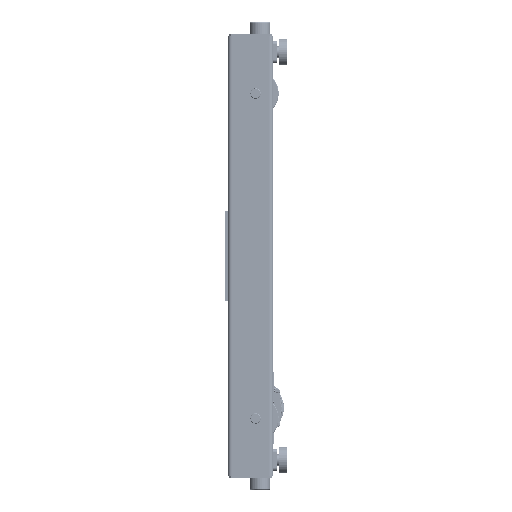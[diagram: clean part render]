
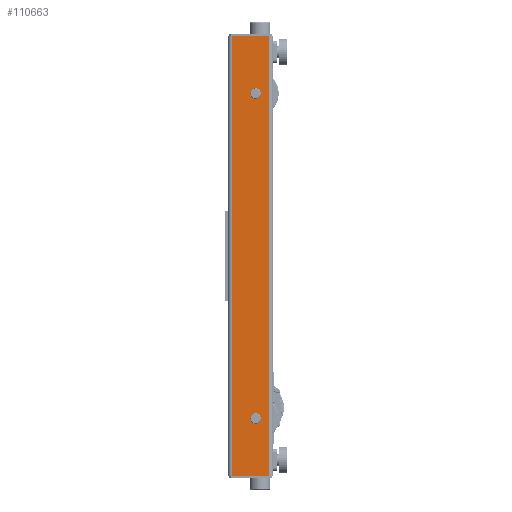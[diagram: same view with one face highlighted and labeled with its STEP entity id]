
A CAD part, left-side view. The second image highlights one B-rep face of the part: STEP entity #110663.
In plain terms, the highlighted planar face has unit normal (-1, 0, 0).
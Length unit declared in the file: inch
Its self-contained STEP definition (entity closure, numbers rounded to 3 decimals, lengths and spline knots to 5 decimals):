
#1296 = ORIENTED_EDGE ( 'NONE', *, *, #123405, .T. ) ;
#1353 = DIRECTION ( 'NONE',  ( 0., 1., 0. ) ) ;
#5076 = CIRCLE ( 'NONE', #177963, 0.69 ) ;
#5777 = LINE ( 'NONE', #51172, #96091 ) ;
#8456 = CARTESIAN_POINT ( 'NONE',  ( 0., 0.5, 0. ) ) ;
#8955 = VERTEX_POINT ( 'NONE', #112087 ) ;
#13245 = DIRECTION ( 'NONE',  ( 0., 1., 0. ) ) ;
#16379 = AXIS2_PLACEMENT_3D ( 'NONE', #188237, #58630, #13245 ) ;
#18720 = AXIS2_PLACEMENT_3D ( 'NONE', #118405, #59339, #1353 ) ;
#18792 = CARTESIAN_POINT ( 'NONE',  ( 0., 0.5, 58.125 ) ) ;
#19993 = AXIS2_PLACEMENT_3D ( 'NONE', #178154, #179110, #58299 ) ;
#20710 = DIRECTION ( 'NONE',  ( 0., 0., -1. ) ) ;
#23028 = EDGE_LOOP ( 'NONE', ( #1296, #184582 ) ) ;
#26532 = CARTESIAN_POINT ( 'NONE',  ( 0., 2.326, 7.563 ) ) ;
#27349 = CARTESIAN_POINT ( 'NONE',  ( 0., 1.636, 50.563 ) ) ;
#28414 = DIRECTION ( 'NONE',  ( 1., 0., 0. ) ) ;
#32395 = ORIENTED_EDGE ( 'NONE', *, *, #85123, .T. ) ;
#39022 = LINE ( 'NONE', #98030, #74369 ) ;
#40369 = CARTESIAN_POINT ( 'NONE',  ( 0., 5.5, 0. ) ) ;
#42019 = CARTESIAN_POINT ( 'NONE',  ( 0., 5.5, 58.125 ) ) ;
#43424 = EDGE_CURVE ( 'NONE', #100585, #8955, #5076, .T. ) ;
#51172 = CARTESIAN_POINT ( 'NONE',  ( 0., 5.5, 58.125 ) ) ;
#52470 = VECTOR ( 'NONE', #117168, 39.37008 ) ;
#54053 = CARTESIAN_POINT ( 'NONE',  ( 0., 3.016, 50.563 ) ) ;
#57896 = VERTEX_POINT ( 'NONE', #54053 ) ;
#58117 = CARTESIAN_POINT ( 'NONE',  ( 0., 0.5, 58.125 ) ) ;
#58299 = DIRECTION ( 'NONE',  ( 0., 1., 0. ) ) ;
#58630 = DIRECTION ( 'NONE',  ( 1., 0., 0. ) ) ;
#59339 = DIRECTION ( 'NONE',  ( 1., 0., 0. ) ) ;
#61164 = DIRECTION ( 'NONE',  ( 0., 0., -1. ) ) ;
#62120 = DIRECTION ( 'NONE',  ( 1., 0., 0. ) ) ;
#66532 = ORIENTED_EDGE ( 'NONE', *, *, #85441, .T. ) ;
#68052 = EDGE_CURVE ( 'NONE', #8955, #100585, #110525, .T. ) ;
#69140 = FACE_OUTER_BOUND ( 'NONE', #129566, .T. ) ;
#70630 = ORIENTED_EDGE ( 'NONE', *, *, #43424, .T. ) ;
#74369 = VECTOR ( 'NONE', #157029, 39.37008 ) ;
#85123 = EDGE_CURVE ( 'NONE', #154420, #126675, #39022, .T. ) ;
#85441 = EDGE_CURVE ( 'NONE', #107642, #154420, #5777, .T. ) ;
#91075 = CIRCLE ( 'NONE', #19993, 0.69 ) ;
#96091 = VECTOR ( 'NONE', #183639, 39.37008 ) ;
#97211 = FACE_BOUND ( 'NONE', #183170, .T. ) ;
#98030 = CARTESIAN_POINT ( 'NONE',  ( 0., 0.5, 0. ) ) ;
#99033 = CARTESIAN_POINT ( 'NONE',  ( 0., 2.326, 7.563 ) ) ;
#100585 = VERTEX_POINT ( 'NONE', #181798 ) ;
#107642 = VERTEX_POINT ( 'NONE', #42019 ) ;
#109036 = CIRCLE ( 'NONE', #16379, 0.69 ) ;
#110525 = CIRCLE ( 'NONE', #172172, 0.69 ) ;
#110663 = ADVANCED_FACE ( 'NONE', ( #97211, #186125, #69140 ), #187071, .F. ) ;
#112087 = CARTESIAN_POINT ( 'NONE',  ( 0., 2.326, 6.873 ) ) ;
#117168 = DIRECTION ( 'NONE',  ( 0., -1., 0. ) ) ;
#118405 = CARTESIAN_POINT ( 'NONE',  ( 0., 0.5, 58.125 ) ) ;
#120772 = EDGE_CURVE ( 'NONE', #148612, #57896, #109036, .T. ) ;
#122338 = ORIENTED_EDGE ( 'NONE', *, *, #68052, .T. ) ;
#123405 = EDGE_CURVE ( 'NONE', #57896, #148612, #91075, .T. ) ;
#126675 = VERTEX_POINT ( 'NONE', #8456 ) ;
#127351 = EDGE_CURVE ( 'NONE', #107642, #187499, #190573, .T. ) ;
#129566 = EDGE_LOOP ( 'NONE', ( #32395, #138192, #134237, #66532 ) ) ;
#134237 = ORIENTED_EDGE ( 'NONE', *, *, #127351, .F. ) ;
#135223 = EDGE_CURVE ( 'NONE', #187499, #126675, #184068, .T. ) ;
#138192 = ORIENTED_EDGE ( 'NONE', *, *, #135223, .F. ) ;
#144500 = VECTOR ( 'NONE', #20710, 39.37008 ) ;
#148612 = VERTEX_POINT ( 'NONE', #27349 ) ;
#154420 = VERTEX_POINT ( 'NONE', #40369 ) ;
#157029 = DIRECTION ( 'NONE',  ( 0., -1., 0. ) ) ;
#159035 = DIRECTION ( 'NONE',  ( 0., 0., -1. ) ) ;
#163855 = CARTESIAN_POINT ( 'NONE',  ( 0., 0.5, 58.125 ) ) ;
#172172 = AXIS2_PLACEMENT_3D ( 'NONE', #99033, #62120, #61164 ) ;
#177963 = AXIS2_PLACEMENT_3D ( 'NONE', #26532, #28414, #159035 ) ;
#178154 = CARTESIAN_POINT ( 'NONE',  ( 0., 2.326, 50.563 ) ) ;
#179110 = DIRECTION ( 'NONE',  ( 1., 0., 0. ) ) ;
#181798 = CARTESIAN_POINT ( 'NONE',  ( 0., 2.326, 8.253 ) ) ;
#183170 = EDGE_LOOP ( 'NONE', ( #122338, #70630 ) ) ;
#183639 = DIRECTION ( 'NONE',  ( 0., 0., -1. ) ) ;
#184068 = LINE ( 'NONE', #18792, #144500 ) ;
#184582 = ORIENTED_EDGE ( 'NONE', *, *, #120772, .T. ) ;
#186125 = FACE_BOUND ( 'NONE', #23028, .T. ) ;
#187071 = PLANE ( 'NONE',  #18720 ) ;
#187499 = VERTEX_POINT ( 'NONE', #163855 ) ;
#188237 = CARTESIAN_POINT ( 'NONE',  ( 0., 2.326, 50.563 ) ) ;
#190573 = LINE ( 'NONE', #58117, #52470 ) ;
